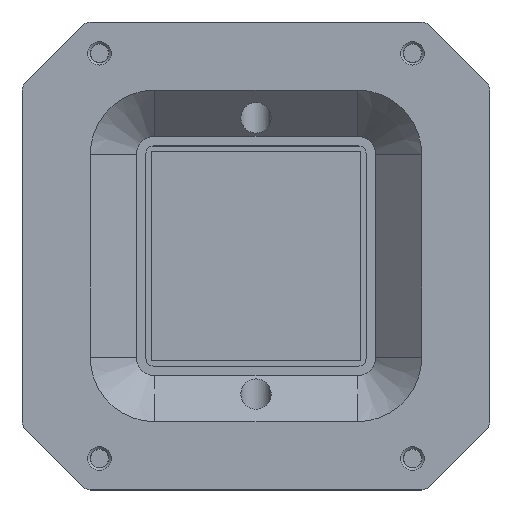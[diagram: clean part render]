
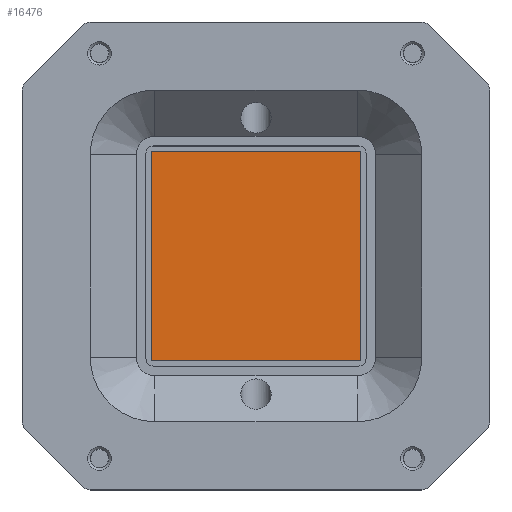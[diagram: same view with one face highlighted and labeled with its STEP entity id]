
A CAD part, top view. The second image highlights one B-rep face of the part: STEP entity #16476.
In plain terms, the highlighted planar face has unit normal (0, 0, 1) as drawn and (0, -1, 0) by its records, which use the part's own axes.
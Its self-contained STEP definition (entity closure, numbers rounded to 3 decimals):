
#514 = CARTESIAN_POINT ( 'NONE',  ( 11.375, -0.4, 11.375 ) ) ;
#631 = CARTESIAN_POINT ( 'NONE',  ( -11.375, -0.4, 11.375 ) ) ;
#1168 = VERTEX_POINT ( 'NONE', #10004 ) ;
#2848 = CARTESIAN_POINT ( 'NONE',  ( 11.375, -0.4, 11.375 ) ) ;
#3116 = DIRECTION ( 'NONE',  ( -1., 0., 0. ) ) ;
#3859 = ORIENTED_EDGE ( 'NONE', *, *, #31671, .T. ) ;
#4275 = ORIENTED_EDGE ( 'NONE', *, *, #12499, .T. ) ;
#6426 = LINE ( 'NONE', #631, #18154 ) ;
#6923 = DIRECTION ( 'NONE',  ( 0., 0., 1. ) ) ;
#7284 = DIRECTION ( 'NONE',  ( 1., 0., 0. ) ) ;
#7380 = VECTOR ( 'NONE', #7284, 1000. ) ;
#9531 = DIRECTION ( 'NONE',  ( 0., 1., 0. ) ) ;
#10004 = CARTESIAN_POINT ( 'NONE',  ( -11.375, -0.4, 11.375 ) ) ;
#10732 = VECTOR ( 'NONE', #3116, 1000. ) ;
#11029 = CARTESIAN_POINT ( 'NONE',  ( -11.375, -0.4, -11.375 ) ) ;
#12004 = DIRECTION ( 'NONE',  ( 0., 0., -1. ) ) ;
#12250 = VECTOR ( 'NONE', #23543, 1000. ) ;
#12340 = EDGE_LOOP ( 'NONE', ( #20821, #3859, #16318, #4275 ) ) ;
#12499 = EDGE_CURVE ( 'NONE', #29582, #1168, #26242, .T. ) ;
#12828 = CARTESIAN_POINT ( 'NONE',  ( 11.375, -0.4, 11.375 ) ) ;
#14392 = CARTESIAN_POINT ( 'NONE',  ( 11.375, -0.4, -11.375 ) ) ;
#15313 = CARTESIAN_POINT ( 'NONE',  ( 11.375, -0.4, -11.375 ) ) ;
#15534 = AXIS2_PLACEMENT_3D ( 'NONE', #17541, #9531, #6923 ) ;
#16318 = ORIENTED_EDGE ( 'NONE', *, *, #34756, .T. ) ;
#16476 = ADVANCED_FACE ( 'NONE', ( #28898 ), #23492, .F. ) ;
#17541 = CARTESIAN_POINT ( 'NONE',  ( 0., -0.4, 0. ) ) ;
#17918 = LINE ( 'NONE', #14392, #7380 ) ;
#18154 = VECTOR ( 'NONE', #12004, 1000. ) ;
#19839 = LINE ( 'NONE', #2848, #12250 ) ;
#20719 = EDGE_CURVE ( 'NONE', #1168, #24139, #6426, .T. ) ;
#20821 = ORIENTED_EDGE ( 'NONE', *, *, #20719, .T. ) ;
#23492 = PLANE ( 'NONE',  #15534 ) ;
#23543 = DIRECTION ( 'NONE',  ( 0., 0., 1. ) ) ;
#24139 = VERTEX_POINT ( 'NONE', #11029 ) ;
#26242 = LINE ( 'NONE', #514, #10732 ) ;
#28898 = FACE_OUTER_BOUND ( 'NONE', #12340, .T. ) ;
#29582 = VERTEX_POINT ( 'NONE', #12828 ) ;
#31671 = EDGE_CURVE ( 'NONE', #24139, #31800, #17918, .T. ) ;
#31800 = VERTEX_POINT ( 'NONE', #15313 ) ;
#34756 = EDGE_CURVE ( 'NONE', #31800, #29582, #19839, .T. ) ;
